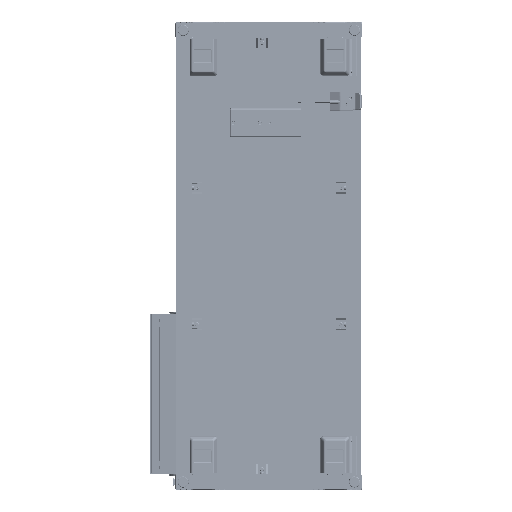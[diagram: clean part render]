
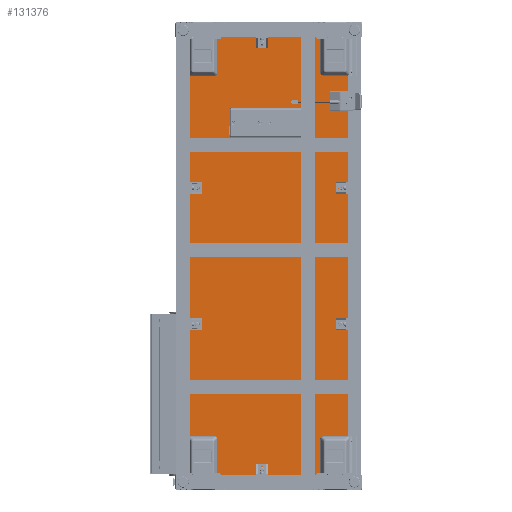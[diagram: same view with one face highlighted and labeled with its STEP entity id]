
A CAD part, front view. The second image highlights one B-rep face of the part: STEP entity #131376.
In plain terms, the highlighted planar face has unit normal (0, -1, 0) as drawn and (0, 0, 1) by its records, which use the part's own axes.
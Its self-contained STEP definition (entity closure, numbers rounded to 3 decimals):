
#4431=FACE_BOUND('',#18011,.T.);
#4432=FACE_BOUND('',#18012,.T.);
#4433=FACE_BOUND('',#18013,.T.);
#4434=FACE_BOUND('',#18014,.T.);
#4435=FACE_BOUND('',#18015,.T.);
#4436=FACE_BOUND('',#18016,.T.);
#4437=FACE_BOUND('',#18017,.T.);
#4438=FACE_BOUND('',#18018,.T.);
#4439=FACE_BOUND('',#18019,.T.);
#4440=FACE_BOUND('',#18020,.T.);
#10577=FACE_OUTER_BOUND('',#18010,.T.);
#18010=EDGE_LOOP('',(#104057,#104058,#104059,#104060,#104061,#104062,#104063,
#104064,#104065,#104066,#104067,#104068,#104069,#104070,#104071));
#18011=EDGE_LOOP('',(#104072));
#18012=EDGE_LOOP('',(#104073));
#18013=EDGE_LOOP('',(#104074));
#18014=EDGE_LOOP('',(#104075));
#18015=EDGE_LOOP('',(#104076));
#18016=EDGE_LOOP('',(#104077));
#18017=EDGE_LOOP('',(#104078));
#18018=EDGE_LOOP('',(#104079));
#18019=EDGE_LOOP('',(#104080));
#18020=EDGE_LOOP('',(#104081));
#23580=CIRCLE('',#142114,0.255);
#23583=CIRCLE('',#142120,0.255);
#23586=CIRCLE('',#142126,0.255);
#23589=CIRCLE('',#142132,0.255);
#23592=CIRCLE('',#142138,0.255);
#23595=CIRCLE('',#142144,0.255);
#23598=CIRCLE('',#142150,0.255);
#23601=CIRCLE('',#142156,0.255);
#23604=CIRCLE('',#142162,0.255);
#23607=CIRCLE('',#142168,0.255);
#23611=CIRCLE('',#142175,0.125);
#23613=CIRCLE('',#142179,0.125);
#23623=CIRCLE('',#142200,0.125);
#23624=CIRCLE('',#142203,0.125);
#23625=CIRCLE('',#142206,0.125);
#32346=LINE('',#225904,#45527);
#32349=LINE('',#225915,#45530);
#32351=LINE('',#225919,#45532);
#32354=LINE('',#225925,#45535);
#32359=LINE('',#225936,#45540);
#32371=LINE('',#225978,#45552);
#32373=LINE('',#225984,#45554);
#32374=LINE('',#225987,#45555);
#32375=LINE('',#225991,#45556);
#32376=LINE('',#225992,#45557);
#45527=VECTOR('',#167480,0.394);
#45530=VECTOR('',#167491,0.394);
#45532=VECTOR('',#167495,0.394);
#45535=VECTOR('',#167500,0.394);
#45540=VECTOR('',#167509,0.394);
#45552=VECTOR('',#167555,0.394);
#45554=VECTOR('',#167563,0.394);
#45555=VECTOR('',#167566,0.394);
#45556=VECTOR('',#167569,0.394);
#45557=VECTOR('',#167570,0.394);
#58185=VERTEX_POINT('',#225781);
#58188=VERTEX_POINT('',#225792);
#58191=VERTEX_POINT('',#225803);
#58194=VERTEX_POINT('',#225814);
#58197=VERTEX_POINT('',#225825);
#58200=VERTEX_POINT('',#225836);
#58203=VERTEX_POINT('',#225847);
#58206=VERTEX_POINT('',#225858);
#58209=VERTEX_POINT('',#225869);
#58212=VERTEX_POINT('',#225880);
#58217=VERTEX_POINT('',#225894);
#58218=VERTEX_POINT('',#225896);
#58220=VERTEX_POINT('',#225902);
#58223=VERTEX_POINT('',#225909);
#58224=VERTEX_POINT('',#225911);
#58225=VERTEX_POINT('',#225918);
#58227=VERTEX_POINT('',#225924);
#58231=VERTEX_POINT('',#225934);
#58242=VERTEX_POINT('',#225970);
#58243=VERTEX_POINT('',#225972);
#58244=VERTEX_POINT('',#225976);
#58245=VERTEX_POINT('',#225980);
#58246=VERTEX_POINT('',#225986);
#58247=VERTEX_POINT('',#225988);
#58248=VERTEX_POINT('',#225990);
#74186=EDGE_CURVE('',#58185,#58185,#23580,.T.);
#74191=EDGE_CURVE('',#58188,#58188,#23583,.T.);
#74196=EDGE_CURVE('',#58191,#58191,#23586,.T.);
#74201=EDGE_CURVE('',#58194,#58194,#23589,.T.);
#74206=EDGE_CURVE('',#58197,#58197,#23592,.T.);
#74211=EDGE_CURVE('',#58200,#58200,#23595,.T.);
#74216=EDGE_CURVE('',#58203,#58203,#23598,.T.);
#74221=EDGE_CURVE('',#58206,#58206,#23601,.T.);
#74226=EDGE_CURVE('',#58209,#58209,#23604,.T.);
#74231=EDGE_CURVE('',#58212,#58212,#23607,.T.);
#74238=EDGE_CURVE('',#58217,#58218,#23611,.T.);
#74242=EDGE_CURVE('',#58217,#58220,#32346,.T.);
#74245=EDGE_CURVE('',#58223,#58224,#23613,.T.);
#74247=EDGE_CURVE('',#58223,#58218,#32349,.T.);
#74249=EDGE_CURVE('',#58225,#58224,#32351,.T.);
#74252=EDGE_CURVE('',#58227,#58225,#32354,.T.);
#74258=EDGE_CURVE('',#58220,#58231,#32359,.T.);
#74276=EDGE_CURVE('',#58242,#58243,#23623,.T.);
#74279=EDGE_CURVE('',#58242,#58244,#32371,.T.);
#74281=EDGE_CURVE('',#58245,#58244,#23624,.T.);
#74282=EDGE_CURVE('',#58245,#58227,#32373,.T.);
#74283=EDGE_CURVE('',#58231,#58246,#32374,.T.);
#74284=EDGE_CURVE('',#58247,#58246,#23625,.T.);
#74285=EDGE_CURVE('',#58247,#58248,#32375,.T.);
#74286=EDGE_CURVE('',#58248,#58243,#32376,.T.);
#104057=ORIENTED_EDGE('',*,*,#74242,.T.);
#104058=ORIENTED_EDGE('',*,*,#74258,.T.);
#104059=ORIENTED_EDGE('',*,*,#74283,.T.);
#104060=ORIENTED_EDGE('',*,*,#74284,.F.);
#104061=ORIENTED_EDGE('',*,*,#74285,.T.);
#104062=ORIENTED_EDGE('',*,*,#74286,.T.);
#104063=ORIENTED_EDGE('',*,*,#74276,.F.);
#104064=ORIENTED_EDGE('',*,*,#74279,.T.);
#104065=ORIENTED_EDGE('',*,*,#74281,.F.);
#104066=ORIENTED_EDGE('',*,*,#74282,.T.);
#104067=ORIENTED_EDGE('',*,*,#74252,.T.);
#104068=ORIENTED_EDGE('',*,*,#74249,.T.);
#104069=ORIENTED_EDGE('',*,*,#74245,.F.);
#104070=ORIENTED_EDGE('',*,*,#74247,.T.);
#104071=ORIENTED_EDGE('',*,*,#74238,.F.);
#104072=ORIENTED_EDGE('',*,*,#74186,.T.);
#104073=ORIENTED_EDGE('',*,*,#74191,.T.);
#104074=ORIENTED_EDGE('',*,*,#74196,.T.);
#104075=ORIENTED_EDGE('',*,*,#74201,.T.);
#104076=ORIENTED_EDGE('',*,*,#74206,.T.);
#104077=ORIENTED_EDGE('',*,*,#74211,.T.);
#104078=ORIENTED_EDGE('',*,*,#74216,.T.);
#104079=ORIENTED_EDGE('',*,*,#74221,.T.);
#104080=ORIENTED_EDGE('',*,*,#74226,.T.);
#104081=ORIENTED_EDGE('',*,*,#74231,.T.);
#122246=PLANE('',#142205);
#131376=ADVANCED_FACE('',(#10577,#4431,#4432,#4433,#4434,#4435,#4436,#4437,
#4438,#4439,#4440),#122246,.T.);
#142114=AXIS2_PLACEMENT_3D('',#225782,#167330,#167331);
#142120=AXIS2_PLACEMENT_3D('',#225793,#167344,#167345);
#142126=AXIS2_PLACEMENT_3D('',#225804,#167358,#167359);
#142132=AXIS2_PLACEMENT_3D('',#225815,#167372,#167373);
#142138=AXIS2_PLACEMENT_3D('',#225826,#167386,#167387);
#142144=AXIS2_PLACEMENT_3D('',#225837,#167400,#167401);
#142150=AXIS2_PLACEMENT_3D('',#225848,#167414,#167415);
#142156=AXIS2_PLACEMENT_3D('',#225859,#167428,#167429);
#142162=AXIS2_PLACEMENT_3D('',#225870,#167442,#167443);
#142168=AXIS2_PLACEMENT_3D('',#225881,#167456,#167457);
#142175=AXIS2_PLACEMENT_3D('',#225897,#167473,#167474);
#142179=AXIS2_PLACEMENT_3D('',#225912,#167486,#167487);
#142200=AXIS2_PLACEMENT_3D('',#225973,#167549,#167550);
#142203=AXIS2_PLACEMENT_3D('',#225982,#167559,#167560);
#142205=AXIS2_PLACEMENT_3D('',#225985,#167564,#167565);
#142206=AXIS2_PLACEMENT_3D('',#225989,#167567,#167568);
#167330=DIRECTION('center_axis',(0.,0.,-1.));
#167331=DIRECTION('ref_axis',(1.,0.,0.));
#167344=DIRECTION('center_axis',(0.,0.,-1.));
#167345=DIRECTION('ref_axis',(1.,0.,0.));
#167358=DIRECTION('center_axis',(0.,0.,-1.));
#167359=DIRECTION('ref_axis',(1.,0.,0.));
#167372=DIRECTION('center_axis',(0.,0.,-1.));
#167373=DIRECTION('ref_axis',(1.,0.,0.));
#167386=DIRECTION('center_axis',(0.,0.,-1.));
#167387=DIRECTION('ref_axis',(1.,0.,0.));
#167400=DIRECTION('center_axis',(0.,0.,-1.));
#167401=DIRECTION('ref_axis',(1.,0.,0.));
#167414=DIRECTION('center_axis',(0.,0.,-1.));
#167415=DIRECTION('ref_axis',(1.,0.,0.));
#167428=DIRECTION('center_axis',(0.,0.,-1.));
#167429=DIRECTION('ref_axis',(1.,0.,0.));
#167442=DIRECTION('center_axis',(0.,0.,-1.));
#167443=DIRECTION('ref_axis',(1.,0.,0.));
#167456=DIRECTION('center_axis',(0.,0.,-1.));
#167457=DIRECTION('ref_axis',(1.,0.,0.));
#167473=DIRECTION('center_axis',(0.,0.,1.));
#167474=DIRECTION('ref_axis',(0.707,-0.707,0.));
#167480=DIRECTION('',(-1.,0.,0.));
#167486=DIRECTION('center_axis',(0.,0.,1.));
#167487=DIRECTION('ref_axis',(0.707,0.707,0.));
#167491=DIRECTION('',(0.,-1.,0.));
#167495=DIRECTION('',(1.,0.,0.));
#167500=DIRECTION('',(0.,-1.,0.));
#167509=DIRECTION('',(0.,-1.,0.));
#167549=DIRECTION('center_axis',(0.,0.,-1.));
#167550=DIRECTION('ref_axis',(0.707,-0.707,0.));
#167555=DIRECTION('',(0.,1.,0.));
#167559=DIRECTION('center_axis',(0.,0.,-1.));
#167560=DIRECTION('ref_axis',(0.707,0.707,0.));
#167563=DIRECTION('',(-1.,0.,0.));
#167564=DIRECTION('center_axis',(0.,0.,1.));
#167565=DIRECTION('ref_axis',(1.,0.,0.));
#167566=DIRECTION('',(1.,0.,0.));
#167567=DIRECTION('center_axis',(0.,0.,1.));
#167568=DIRECTION('ref_axis',(0.707,0.707,0.));
#167569=DIRECTION('',(0.,-1.,0.));
#167570=DIRECTION('',(1.,0.,0.));
#225781=CARTESIAN_POINT('',(9.088,-26.558,0.75));
#225782=CARTESIAN_POINT('Origin',(9.343,-26.558,0.75));
#225792=CARTESIAN_POINT('',(-1.141,-27.673,0.75));
#225793=CARTESIAN_POINT('Origin',(-0.886,-27.673,
0.75));
#225803=CARTESIAN_POINT('',(-9.598,-26.558,0.75));
#225804=CARTESIAN_POINT('Origin',(-9.343,-26.558,0.75));
#225814=CARTESIAN_POINT('',(-9.598,-8.851,0.75));
#225815=CARTESIAN_POINT('Origin',(-9.343,-8.851,0.75));
#225825=CARTESIAN_POINT('',(9.088,-8.851,0.75));
#225826=CARTESIAN_POINT('Origin',(9.343,-8.851,0.75));
#225836=CARTESIAN_POINT('',(-9.598,8.854,0.75));
#225837=CARTESIAN_POINT('Origin',(-9.343,8.854,0.75));
#225847=CARTESIAN_POINT('',(9.088,8.854,0.75));
#225848=CARTESIAN_POINT('Origin',(9.343,8.854,0.75));
#225858=CARTESIAN_POINT('',(9.088,26.558,0.75));
#225859=CARTESIAN_POINT('Origin',(9.343,26.558,0.75));
#225869=CARTESIAN_POINT('',(-1.141,27.673,0.75));
#225870=CARTESIAN_POINT('Origin',(-0.886,27.673,0.75));
#225880=CARTESIAN_POINT('',(-9.598,26.558,0.75));
#225881=CARTESIAN_POINT('Origin',(-9.343,26.558,0.75));
#225894=CARTESIAN_POINT('',(-10.334,-7.236,0.75));
#225896=CARTESIAN_POINT('',(-10.209,-7.111,0.75));
#225897=CARTESIAN_POINT('Origin',(-10.334,-7.111,0.75));
#225902=CARTESIAN_POINT('',(-12.,-7.236,0.75));
#225904=CARTESIAN_POINT('',(-6.,-7.236,0.75));
#225909=CARTESIAN_POINT('',(-10.209,-5.549,0.75));
#225911=CARTESIAN_POINT('',(-10.334,-5.424,0.75));
#225912=CARTESIAN_POINT('Origin',(-10.334,-5.549,0.75));
#225915=CARTESIAN_POINT('',(-10.209,-3.618,0.75));
#225918=CARTESIAN_POINT('',(-12.,-5.424,0.75));
#225919=CARTESIAN_POINT('',(-5.104,-5.424,0.75));
#225924=CARTESIAN_POINT('',(-12.,30.33,0.75));
#225925=CARTESIAN_POINT('',(-12.,30.33,0.75));
#225934=CARTESIAN_POINT('',(-12.,-28.519,0.75));
#225936=CARTESIAN_POINT('',(-12.,30.33,0.75));
#225970=CARTESIAN_POINT('',(12.,-30.205,0.75));
#225972=CARTESIAN_POINT('',(11.875,-30.33,0.75));
#225973=CARTESIAN_POINT('Origin',(11.875,-30.205,0.75));
#225976=CARTESIAN_POINT('',(12.,30.205,0.75));
#225978=CARTESIAN_POINT('',(12.,-30.33,0.75));
#225980=CARTESIAN_POINT('',(11.875,30.33,0.75));
#225982=CARTESIAN_POINT('Origin',(11.875,30.205,0.75));
#225984=CARTESIAN_POINT('',(12.,30.33,0.75));
#225985=CARTESIAN_POINT('Origin',(0.,0.,0.75));
#225986=CARTESIAN_POINT('',(-10.314,-28.519,0.75));
#225987=CARTESIAN_POINT('',(-5.094,-28.519,0.75));
#225988=CARTESIAN_POINT('',(-10.189,-28.644,0.75));
#225989=CARTESIAN_POINT('Origin',(-10.314,-28.644,0.75));
#225990=CARTESIAN_POINT('',(-10.189,-30.33,0.75));
#225991=CARTESIAN_POINT('',(-10.189,-15.165,0.75));
#225992=CARTESIAN_POINT('',(-12.,-30.33,0.75));
